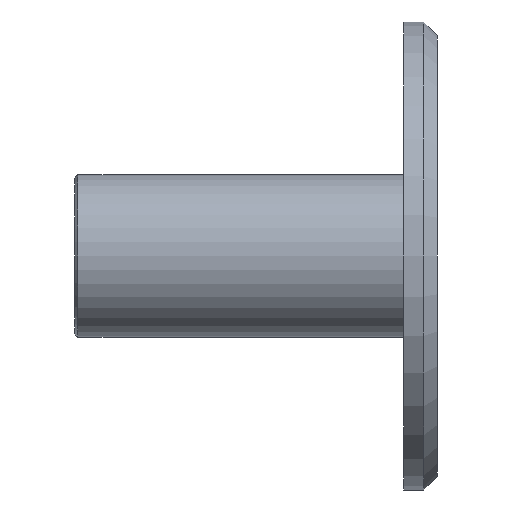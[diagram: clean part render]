
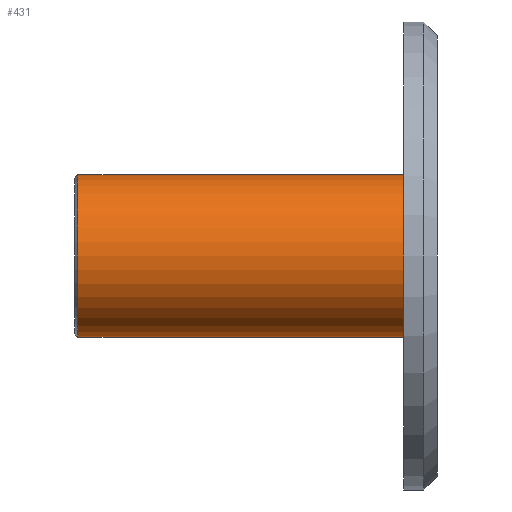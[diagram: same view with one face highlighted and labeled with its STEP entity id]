
A CAD part, left-side view. The second image highlights one B-rep face of the part: STEP entity #431.
In plain terms, the highlighted cylindrical face has radius 12 mm (diameter 24 mm), a partial arc.
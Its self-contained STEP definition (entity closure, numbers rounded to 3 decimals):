
#9 = DIRECTION ( 'NONE',  ( 0., 1., 0. ) ) ;
#22 = DIRECTION ( 'NONE',  ( 0., 0., 1. ) ) ;
#102 = DIRECTION ( 'NONE',  ( 0., 0., 1. ) ) ;
#106 = ORIENTED_EDGE ( 'NONE', *, *, #1281, .T. ) ;
#136 = VERTEX_POINT ( 'NONE', #1222 ) ;
#199 = CARTESIAN_POINT ( 'NONE',  ( 0., 0., 12. ) ) ;
#226 = CARTESIAN_POINT ( 'NONE',  ( 0., 0., -12. ) ) ;
#248 = CARTESIAN_POINT ( 'NONE',  ( 0., 0., 0. ) ) ;
#267 = EDGE_CURVE ( 'NONE', #871, #136, #862, .T. ) ;
#274 = EDGE_CURVE ( 'NONE', #674, #136, #406, .T. ) ;
#305 = CARTESIAN_POINT ( 'NONE',  ( 0., 0., 0. ) ) ;
#348 = DIRECTION ( 'NONE',  ( 0., 1., 0. ) ) ;
#367 = AXIS2_PLACEMENT_3D ( 'NONE', #1054, #549, #22 ) ;
#406 = LINE ( 'NONE', #226, #849 ) ;
#420 = ORIENTED_EDGE ( 'NONE', *, *, #267, .T. ) ;
#431 = ADVANCED_FACE ( 'NONE', ( #1314 ), #1254, .T. ) ;
#485 = VECTOR ( 'NONE', #613, 1000. ) ;
#549 = DIRECTION ( 'NONE',  ( 0., -1., 0. ) ) ;
#600 = AXIS2_PLACEMENT_3D ( 'NONE', #305, #1028, #102 ) ;
#601 = CARTESIAN_POINT ( 'NONE',  ( 0., 0., 12. ) ) ;
#613 = DIRECTION ( 'NONE',  ( 0., 1., 0. ) ) ;
#667 = CARTESIAN_POINT ( 'NONE',  ( 0., 48., 12. ) ) ;
#674 = VERTEX_POINT ( 'NONE', #1015 ) ;
#678 = VERTEX_POINT ( 'NONE', #601 ) ;
#844 = LINE ( 'NONE', #199, #485 ) ;
#849 = VECTOR ( 'NONE', #9, 1000. ) ;
#862 = CIRCLE ( 'NONE', #367, 12. ) ;
#871 = VERTEX_POINT ( 'NONE', #667 ) ;
#980 = AXIS2_PLACEMENT_3D ( 'NONE', #248, #348, #1082 ) ;
#1015 = CARTESIAN_POINT ( 'NONE',  ( 0., 0., -12. ) ) ;
#1028 = DIRECTION ( 'NONE',  ( 0., 1., 0. ) ) ;
#1054 = CARTESIAN_POINT ( 'NONE',  ( 0., 48., 0. ) ) ;
#1074 = CIRCLE ( 'NONE', #600, 12. ) ;
#1082 = DIRECTION ( 'NONE',  ( 0., 0., 1. ) ) ;
#1130 = EDGE_CURVE ( 'NONE', #678, #871, #844, .T. ) ;
#1194 = EDGE_LOOP ( 'NONE', ( #1324, #106, #1257, #420 ) ) ;
#1222 = CARTESIAN_POINT ( 'NONE',  ( 0., 48., -12. ) ) ;
#1254 = CYLINDRICAL_SURFACE ( 'NONE', #980, 12. ) ;
#1257 = ORIENTED_EDGE ( 'NONE', *, *, #1130, .T. ) ;
#1281 = EDGE_CURVE ( 'NONE', #674, #678, #1074, .T. ) ;
#1314 = FACE_OUTER_BOUND ( 'NONE', #1194, .T. ) ;
#1324 = ORIENTED_EDGE ( 'NONE', *, *, #274, .F. ) ;
